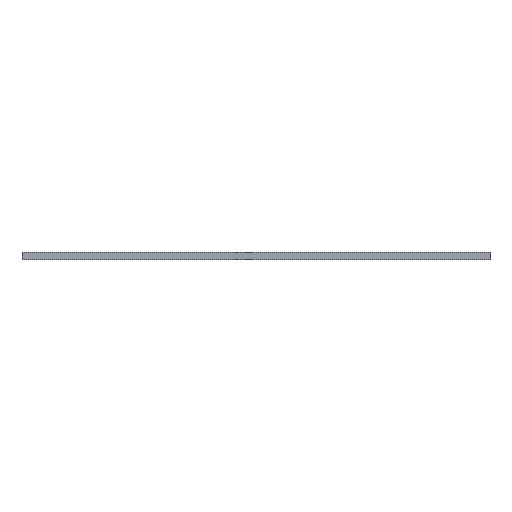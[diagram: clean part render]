
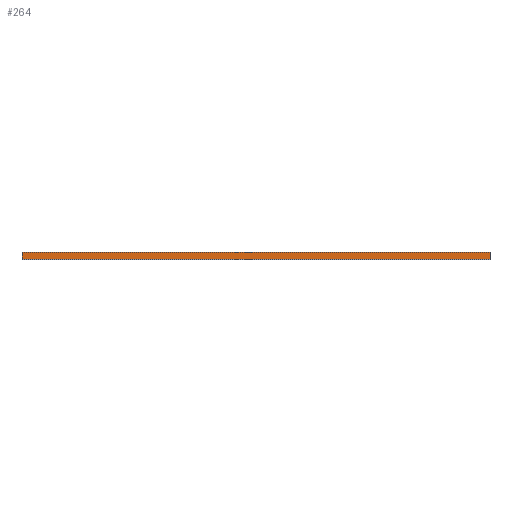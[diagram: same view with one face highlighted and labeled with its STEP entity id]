
A CAD part, top view. The second image highlights one B-rep face of the part: STEP entity #264.
In plain terms, the highlighted planar face has unit normal (0, 0, 1).
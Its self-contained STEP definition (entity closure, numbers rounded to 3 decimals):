
#264=ADVANCED_FACE('',(#538),#539,.T.);
#538=FACE_OUTER_BOUND('',#815,.T.);
#539=PLANE('',#816);
#815=EDGE_LOOP('',(#1553,#1554,#1555,#1556));
#816=AXIS2_PLACEMENT_3D('',#1557,#1558,#1559);
#1553=ORIENTED_EDGE('',*,*,#1952,.T.);
#1554=ORIENTED_EDGE('',*,*,#1990,.T.);
#1555=ORIENTED_EDGE('',*,*,#1992,.F.);
#1556=ORIENTED_EDGE('',*,*,#1993,.F.);
#1557=CARTESIAN_POINT('',(2500.0,-15.5,0.));
#1558=DIRECTION('',(0.0,0.,1.0));
#1559=DIRECTION('',(0.0,1.0,0.));
#1952=EDGE_CURVE('',#2419,#2417,#2420,.T.);
#1990=EDGE_CURVE('',#2417,#2472,#2474,.T.);
#1992=EDGE_CURVE('',#2476,#2472,#2477,.T.);
#1993=EDGE_CURVE('',#2419,#2476,#2478,.T.);
#2417=VERTEX_POINT('',#3065);
#2419=VERTEX_POINT('',#3068);
#2420=LINE('',#3069,#3070);
#2472=VERTEX_POINT('',#3147);
#2474=LINE('',#3150,#3151);
#2476=VERTEX_POINT('',#3153);
#2477=LINE('',#3154,#3155);
#2478=LINE('',#3156,#3157);
#3065=CARTESIAN_POINT('',(3500.0,36.0,0.));
#3068=CARTESIAN_POINT('',(3500.0,-15.5,0.));
#3069=CARTESIAN_POINT('',(3500.0,-15.5,0.));
#3070=VECTOR('',#3491,1.0);
#3147=CARTESIAN_POINT('',(0.0,36.0,0.));
#3150=CARTESIAN_POINT('',(2500.0,36.0,0.));
#3151=VECTOR('',#3518,1.0);
#3153=CARTESIAN_POINT('',(0.0,-15.5,0.));
#3154=CARTESIAN_POINT('',(0.0,-15.5,0.));
#3155=VECTOR('',#3519,1.0);
#3156=CARTESIAN_POINT('',(2500.0,-15.5,0.));
#3157=VECTOR('',#3520,1.0);
#3491=DIRECTION('',(0.0,1.0,0.));
#3518=DIRECTION('',(-1.0,0.0,0.0));
#3519=DIRECTION('',(0.0,1.0,0.));
#3520=DIRECTION('',(-1.0,0.0,0.0));
